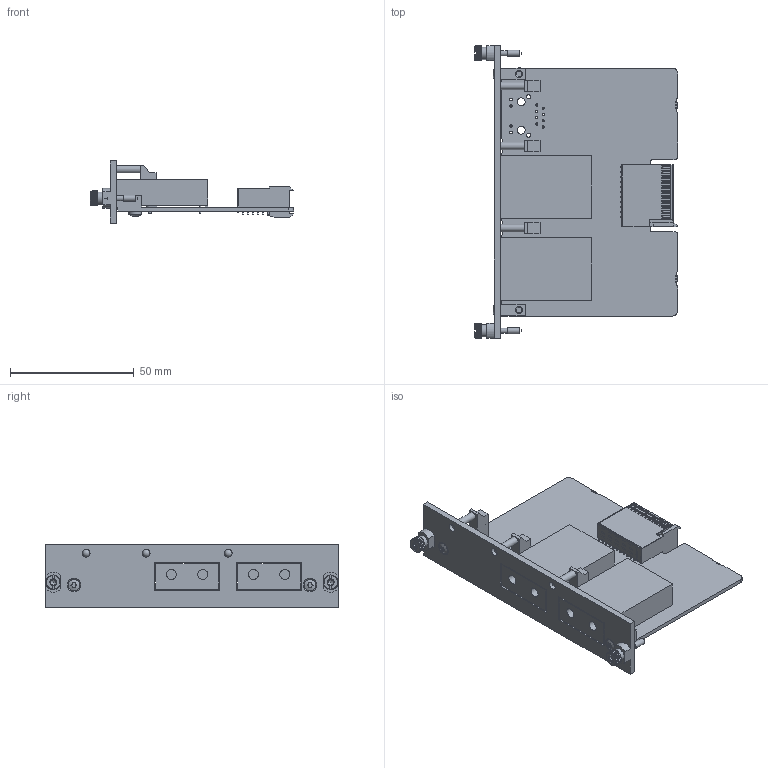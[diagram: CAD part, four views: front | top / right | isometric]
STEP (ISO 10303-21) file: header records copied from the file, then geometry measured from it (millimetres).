
FILE_DESCRIPTION(/* description */ (''),/* implementation_level */ '2;1');
FILE_NAME(/* name */ 'SIM6.5_3D CAD_20250318.stp',/* time_stamp */ '2025-03-18T15:33:28+01:00',/* author */ ('DSP'),/* organization */ (''),/* preprocessor_version */ 'ST-DEVELOPER v19.2',/* originating_system */ 'Autodesk Inventor 2023',/* authorisation */ '');
FILE_SCHEMA (('AUTOMOTIVE_DESIGN { 1 0 10303 214 3 1 1 }'));
Products named in the file (1): SIM6.1_3D CAD_SMPL_20250313
Bounding box: 81.9 x 117.85 x 25.06 mm (x, y, z)
Volume: 43593.5 mm3; surface area: 37285.2 mm2
Topology: 12 solids, 12 shells, 5398 faces, 15397 edges, 10111 vertices
Faces by surface type: plane 3611, cylinder 1664, cone 66, torus 39, sphere 18
Full cylindrical faces by diameter (mm): 0.46 x18, 0.6 x4, 0.7 x66, 0.8 x18, 0.9 x16, 1 x8, 1.15 x6, 1.27 x4, 1.422 x6, 1.59 x2, 1.6 x4, 1.9 x4, 2 x2, 2.5 x4, 2.9 x2, 2.997 x3, 3.2 x7, 4 x4, 4.7 x2, 5 x4
Entity records: 184144 total; most frequent: CARTESIAN_POINT 35422, ORIENTED_EDGE 30764, DIRECTION 29055, EDGE_CURVE 15382, LINE 11103, VECTOR 11103, VERTEX_POINT 10111, AXIS2_PLACEMENT_3D 8976
